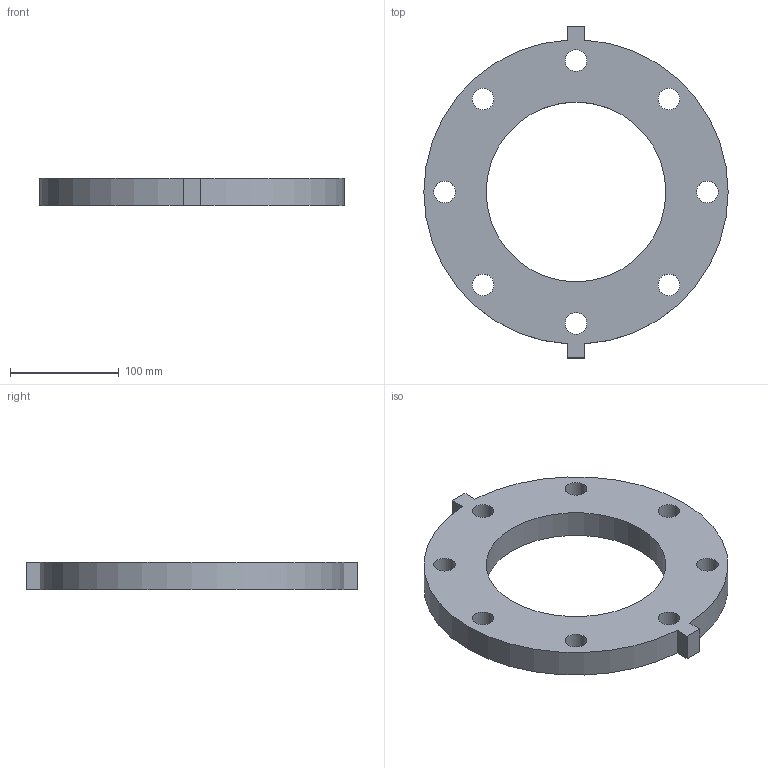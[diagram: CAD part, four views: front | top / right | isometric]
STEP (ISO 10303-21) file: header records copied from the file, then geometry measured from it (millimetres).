
FILE_DESCRIPTION(/* description */ ('VIC FLANGE ADAPTER STYLE 741 PN10 Flanges','CAx-IF Rec.Pracs.---Representation and Presentation of Product Manufacturing Information (PMI)---4.0---2014-10-13'),/* implementation_level */ '2;1');
FILE_NAME(/* name */ 'C:\Users\kkamble\AppData\Roaming\Autodesk\ApplicationPlugins\Back Up\Victaulic_IPS_Flange Adapter_PN10_Style 741 (OGSxFLG)\Victaulic_IPS_Flange Adapter_PN10_Style 741 (OGSxFLG)_06.0 (165.1) (150).stp',/* time_stamp */ '2020-07-24T08:16:10+06:00',/* author */ ('jheald'),/* organization */ ('Victaulic'),/* preprocessor_version */ 'ST-DEVELOPER v17.2',/* originating_system */ 'Autodesk Inventor 2019',/* authorisation */ '');
FILE_SCHEMA (('AP242_MANAGED_MODEL_BASED_3D_ENGINEERING_MIM_LF { 1 0 10303 442 1 1 4 }'));
Length unit declared in the file: inch
Products named in the file (1): 741-06.0 (165.1)
Bounding box: 279.4 x 304.8 x 25.4 mm (x, y, z)
Volume: 959835.3 mm3; surface area: 125170.6 mm2
Topology: 1 solids, 1 shells, 19 faces, 51 edges, 34 vertices
Faces by surface type: cylinder 11, plane 8
Full cylindrical faces by diameter (mm): 20.066 x8, 165.1 x1
Entity records: 703 total; most frequent: DIRECTION 113, CARTESIAN_POINT 105, ORIENTED_EDGE 102, EDGE_CURVE 51, AXIS2_PLACEMENT_3D 42, EDGE_LOOP 37, VERTEX_POINT 34, LINE 29
